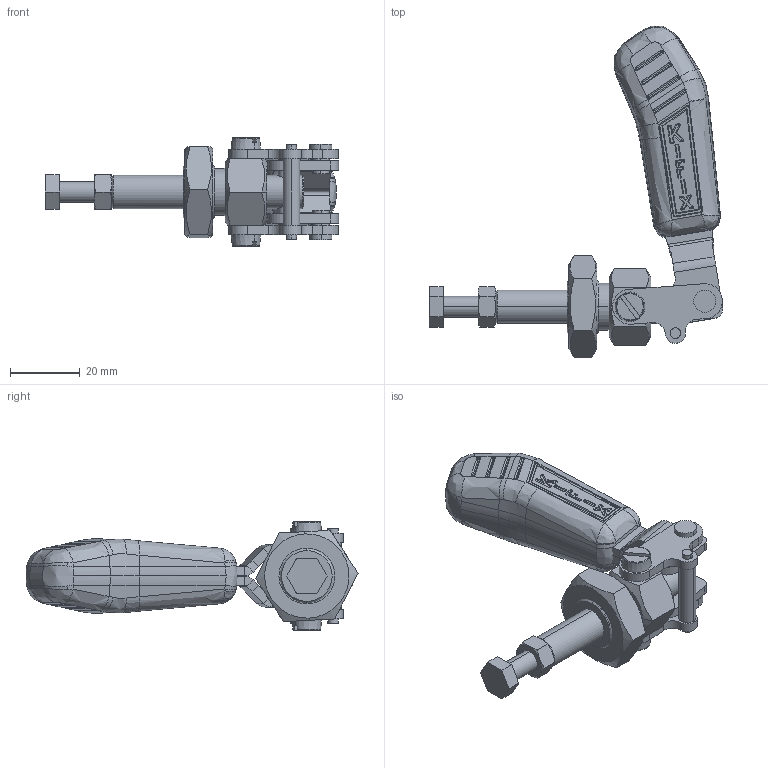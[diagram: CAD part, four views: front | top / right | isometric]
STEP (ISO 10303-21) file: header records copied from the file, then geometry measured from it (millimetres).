
FILE_DESCRIPTION (( 'STEP AP203' ), '1' );
FILE_NAME ('KF-005.STEP', '2014-08-26T17:28:22', ( 'Ricardo' ), ( '' ), 'SwSTEP 2.0', 'SolidWorks 2013', '' );
FILE_SCHEMA (( 'CONFIG_CONTROL_DESIGN' ));
Length unit declared in the file: millimetre
Products named in the file (15): 12.50019; 01.10144_Esquerda; 11.50001; 08.10064; PP-M6; 11.20002; KF-005; 06.50024; 16.20024; 16.20025; 02.20002; 12.50009; 03.20016; 07.60005; 01.10144_Direita
Assembly tree (17 placements, depth 3):
  KF-005
    02.20002
    03.20016
    01.10144_Direita
    01.10144_Esquerda
    08.10064  x2
    11.20002
    06.50024  x2
    16.20024
    16.20025
    12.50009  x2
    07.60005
    PP-M6
      12.50019
      11.50001
Bounding box: 83.96 x 95.05 x 30.95 mm (x, y, z)
Volume: 36983.6 mm3; surface area: 23406.4 mm2
Topology: 16 solids, 16 shells, 892 faces, 2250 edges, 1408 vertices
Faces by surface type: cylinder 274, bspline 273, plane 239, cone 50, sphere 50, torus 6
Entity records: 34391 total; most frequent: CARTESIAN_POINT 14929, ORIENTED_EDGE 4290, DIRECTION 2920, EDGE_CURVE 2145, VERTEX_POINT 1345, AXIS2_PLACEMENT_3D 1096, EDGE_LOOP 906, FACE_OUTER_BOUND 851
